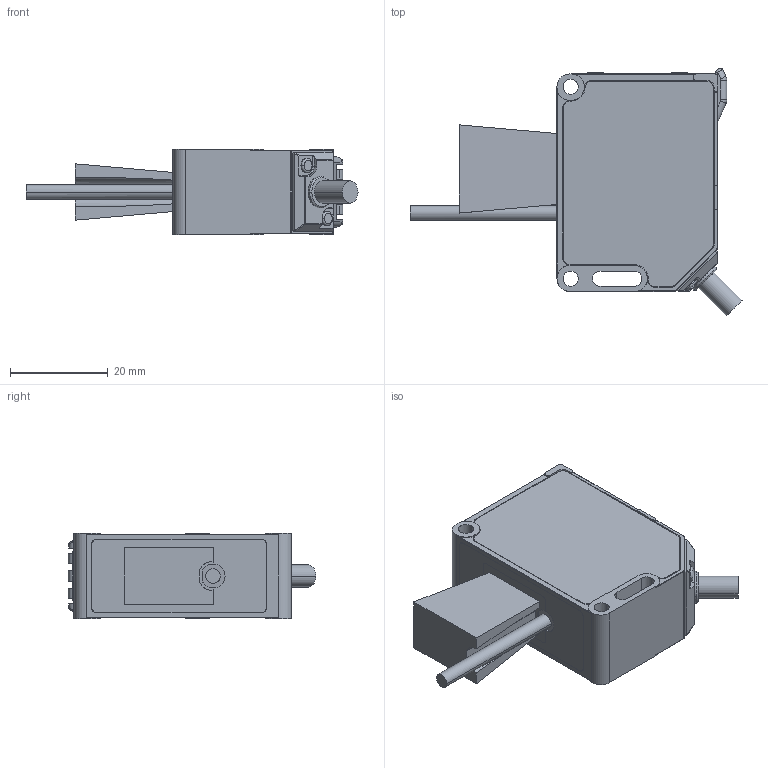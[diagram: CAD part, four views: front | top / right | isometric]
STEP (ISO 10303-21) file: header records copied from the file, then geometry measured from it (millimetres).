
FILE_DESCRIPTION(('CoCreate Modeling STEP Export'),'2;1');
FILE_NAME('TOF_DL250_Cable_M12Pigtail.stp','2016-10-04T13:03:05',(''),(''),'CoCreate Modeling STEP processor for AP214 (Solid Model)','CoCreate Modeling 16.50A 01-Dec-2009 (C) Parametric Technology GmbH','');
FILE_SCHEMA(('AUTOMOTIVE_DESIGN { 1 0 10303 214 1 1 1 1 }'));
Length unit declared in the file: millimetre
Products named in the file (2): Analog_Teach_Cable_Pigtail
Assembly tree (1 placements, depth 2):
  Analog_Teach_Cable_Pigtail
    Analog_Teach_Cable_Pigtail
Bounding box: 67.8 x 50.6 x 17.4 mm (x, y, z)
Volume: 27117.3 mm3; surface area: 8036 mm2
Topology: 1 solids, 1 shells, 566 faces, 1505 edges, 976 vertices
Faces by surface type: plane 351, cylinder 175, torus 18, cone 14, bspline 6, sphere 2
Entity records: 17508 total; most frequent: CARTESIAN_POINT 3487, ORIENTED_EDGE 3006, DIRECTION 2818, EDGE_CURVE 1503, VECTOR 1044, LINE 1044, VERTEX_POINT 976, AXIS2_PLACEMENT_3D 887
